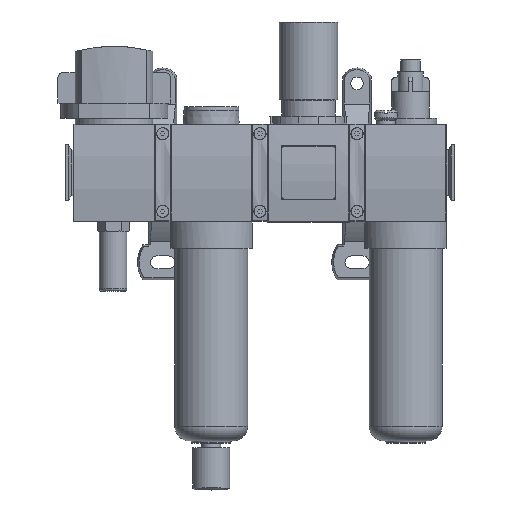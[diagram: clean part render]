
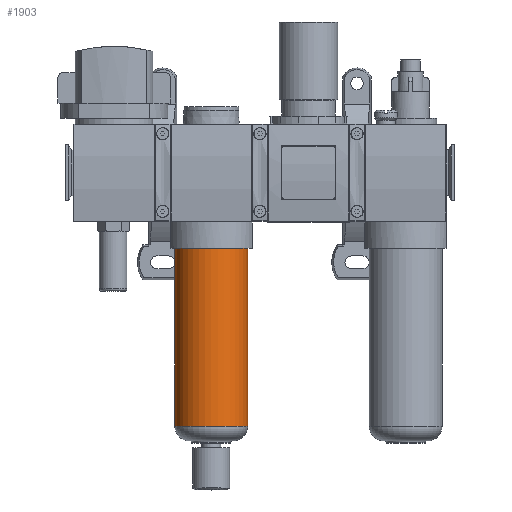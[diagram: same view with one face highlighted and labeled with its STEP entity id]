
A CAD part, top view. The second image highlights one B-rep face of the part: STEP entity #1903.
In plain terms, the highlighted cylindrical face has radius 18.75 mm (diameter 37.5 mm), a full revolution.
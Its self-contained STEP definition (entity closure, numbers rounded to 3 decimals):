
#1903 = ADVANCED_FACE( '', ( #4223, #4224 ), #4225, .T. );
#4223 = FACE_OUTER_BOUND( '', #7273, .T. );
#4224 = FACE_OUTER_BOUND( '', #7274, .T. );
#4225 = CYLINDRICAL_SURFACE( '', #7275, 18.75 );
#7273 = EDGE_LOOP( '', ( #11888 ) );
#7274 = EDGE_LOOP( '', ( #11889 ) );
#7275 = AXIS2_PLACEMENT_3D( '', #11890, #11891, #11892 );
#11888 = ORIENTED_EDGE( '', *, *, #18631, .F. );
#11889 = ORIENTED_EDGE( '', *, *, #18632, .T. );
#11890 = CARTESIAN_POINT( '', ( 0., -91.5, 0. ) );
#11891 = DIRECTION( '', ( 0., 1., 0. ) );
#11892 = DIRECTION( '', ( 0., 0., -1. ) );
#18631 = EDGE_CURVE( '', #22606, #22606, #22607, .T. );
#18632 = EDGE_CURVE( '', #22608, #22608, #22609, .T. );
#22606 = VERTEX_POINT( '', #28356 );
#22607 = CIRCLE( '', #28357, 18.75 );
#22608 = VERTEX_POINT( '', #28358 );
#22609 = CIRCLE( '', #28359, 18.75 );
#28356 = CARTESIAN_POINT( '', ( 0., -91.5, -18.75 ) );
#28357 = AXIS2_PLACEMENT_3D( '', #33125, #33126, #33127 );
#28358 = CARTESIAN_POINT( '', ( 0., 0., -18.75 ) );
#28359 = AXIS2_PLACEMENT_3D( '', #33128, #33129, #33130 );
#33125 = CARTESIAN_POINT( '', ( 0., -91.5, 0. ) );
#33126 = DIRECTION( '', ( 0., -1., 0. ) );
#33127 = DIRECTION( '', ( 0., 0., -1. ) );
#33128 = CARTESIAN_POINT( '', ( 0., 0., 0. ) );
#33129 = DIRECTION( '', ( 0., -1., 0. ) );
#33130 = DIRECTION( '', ( 0., 0., -1. ) );
